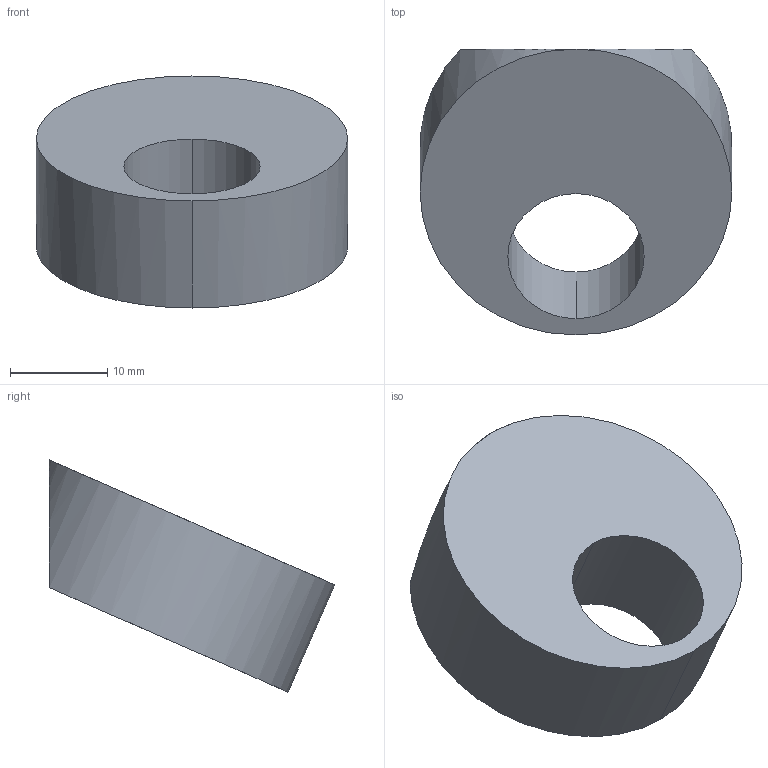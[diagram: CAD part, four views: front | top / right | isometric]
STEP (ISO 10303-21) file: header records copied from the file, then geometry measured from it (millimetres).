
FILE_DESCRIPTION( ( '' ), '1' );
FILE_NAME( 'C:/Documents and Settings/Nikhil/Desktop/Nik/Done/9069886.stp', '2013-10-24T04:54:12', ( '' ), ( '' ), ' ', ' ', ' ' );
FILE_SCHEMA( ( 'automotive_design' ) );
Length unit declared in the file: millimetre
Products named in the file (1): 1
Bounding box: 32 x 29.32 x 23.82 mm (x, y, z)
Volume: 7283.6 mm3; surface area: 3053.1 mm2
Topology: 1 solids, 1 shells, 10 faces, 20 edges, 13 vertices
Faces by surface type: cylinder 6, plane 4
Entity records: 543 total; most frequent: DIRECTION 56, STYLED_ITEM 44, PRESENTATION_STYLE_ASSIGNMENT 44, CARTESIAN_POINT 44, COLOUR_RGB 44, ORIENTED_EDGE 40, AXIS2_PLACEMENT_3D 25, EDGE_CURVE 20
